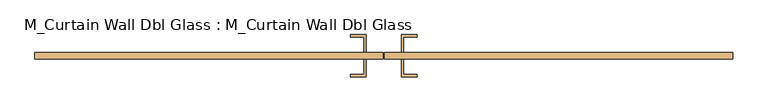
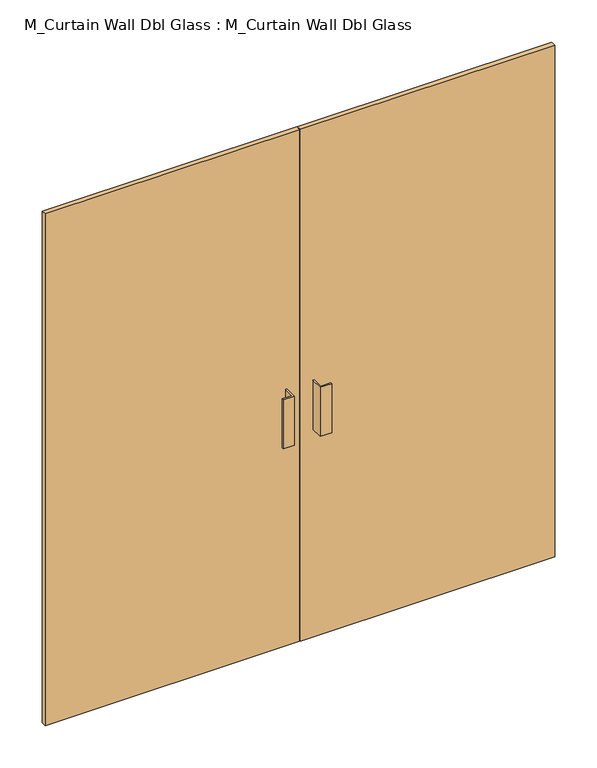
"""IFC4 building model written with IfcOpenShell, lengths in millimetres: door geometry, M_Curtain Wall Dbl Glass : M_Curtain Wall Dbl Glass."""

from ifc_helpers import new_model, si_unit, frame, origin, origin_with_axes, place, context, project, spatial, polyline, outline, extrude, source, transform, mapped, element, save


def m_curtain_wall_dbl_glass_m_curtain_wall_dbl_glass_e02fd95a(model_context):
    return source(origin(), model_context, "Body", "SweptSolid", [
        extrude(outline(polyline([(-1.5875, -30.95), (-1.5875, -50.0), (-1000.0, -50.0), (-1000.0, -30.95), (-1.5875, -30.95)])), origin_with_axes(), (0.0, 0.0, 1.0), 2125.0),
        extrude(outline(polyline([(1000.0, -30.95), (1000.0, -50.0), (1.5875, -50.0), (1.5875, -30.95), (1000.0, -30.95)])), origin_with_axes(), (0.0, 0.0, 1.0), 2125.0),
        extrude(outline(polyline([(-50.8, -100.8), (-95.25, -100.8), (-95.25, -94.45), (-57.15, -94.45), (-57.15, -50.0), (-50.8, -50.0), (-50.8, -100.8)])), frame((0.0, 0.0, 863.6), z_axis=(0.0, 0.0, 1.0), x_axis=(1.0, 0.0, 0.0)), (0.0, 0.0, 1.0), 203.2),
        extrude(outline(polyline([(50.8, -100.8), (50.8, -50.0), (57.15, -50.0), (57.15, -94.45), (95.25, -94.45), (95.25, -100.8), (50.8, -100.8)])), frame((0.0, 0.0, 863.6), z_axis=(0.0, 0.0, 1.0), x_axis=(1.0, 0.0, 0.0)), (0.0, 0.0, 1.0), 203.2),
        extrude(outline(polyline([(-50.8, 19.85), (-50.8, -30.95), (-57.15, -30.95), (-57.15, 13.5), (-95.25, 13.5), (-95.25, 19.85), (-50.8, 19.85)])), frame((0.0, 0.0, 863.6), z_axis=(0.0, 0.0, 1.0), x_axis=(1.0, 0.0, 0.0)), (0.0, 0.0, 1.0), 203.2),
        extrude(outline(polyline([(50.8, 19.85), (95.25, 19.85), (95.25, 13.5), (57.15, 13.5), (57.15, -30.95), (50.8, -30.95), (50.8, 19.85)])), frame((0.0, 0.0, 863.6), z_axis=(0.0, 0.0, 1.0), x_axis=(1.0, 0.0, 0.0)), (0.0, 0.0, 1.0), 203.2),
    ])


if __name__ == "__main__":
    model = new_model("IFC4")
    model_context = context("Model", 3, world=origin())
    ifc_project = project(units=[si_unit("LENGTHUNIT", "METRE", prefix="MILLI")], contexts=[model_context])
    site = spatial("IfcSite", under=ifc_project)
    building = spatial("IfcBuilding", under=site)
    placement = place(None, origin())
    m_curtain_wall_dbl_glass_m_curtain_wall_dbl_glass_shape = m_curtain_wall_dbl_glass_m_curtain_wall_dbl_glass_e02fd95a(model_context)
    element("IfcDoor", 1, ObjectType="M_Curtain Wall Dbl Glass : M_Curtain Wall Dbl Glass", at=placement, inside=building, context=model_context, shape_type="MappedRepresentation", body=[
        mapped(m_curtain_wall_dbl_glass_m_curtain_wall_dbl_glass_shape, transform((0.0, 0.0, 0.0), x_axis=(1.0, 0.0, 0.0), y_axis=(0.0, 1.0, 0.0), z_axis=(0.0, 0.0, 1.0))),
    ])
    save(model, "model.ifc")
